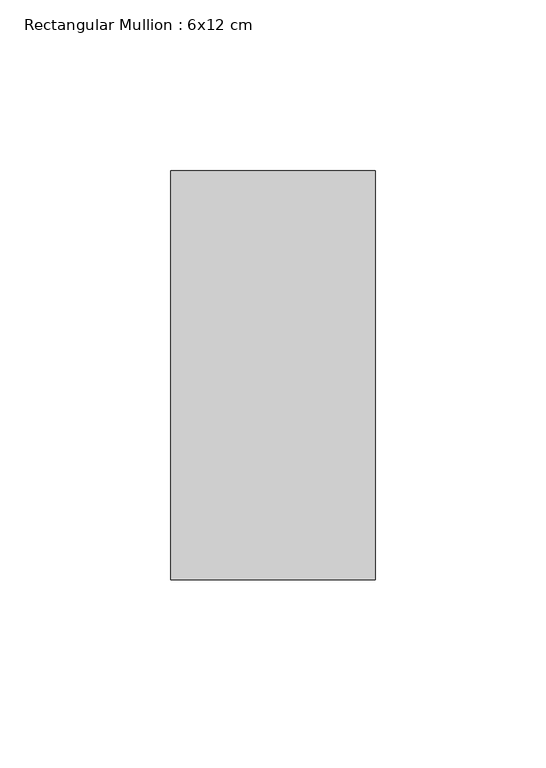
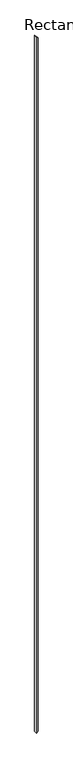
"""IFC4 building model written with IfcOpenShell, lengths in millimetres: member geometry, Rectangular Mullion : 6x12 cm."""

from ifc_helpers import new_model, si_unit, frame, origin, place, context, project, spatial, polyline, outline, extrude, source, transform, mapped, element, save


def rectangular_mullion_6x12_cm_6d6147da(model_context):
    return source(origin(), model_context, "Body", "SweptSolid", [
        extrude(outline(polyline([(-104.1141863, 30.0), (-53.2294579, -30.0), (-29505.6405988, -30.0), (-29458.5251095, 30.0), (-104.1141863, 30.0)])), frame((0.0, 85.0, 0.0), z_axis=(0.0, 1.0, 0.0), x_axis=(0.0, 0.0, 1.0)), (0.0, 0.0, 1.0), 120.0),
    ])


if __name__ == "__main__":
    model = new_model("IFC4")
    model_context = context("Model", 3, world=origin())
    ifc_project = project(units=[si_unit("LENGTHUNIT", "METRE", prefix="MILLI")], contexts=[model_context])
    site = spatial("IfcSite", under=ifc_project)
    building = spatial("IfcBuilding", under=site)
    placement = place(None, origin())
    rectangular_mullion_6x12_cm_shape = rectangular_mullion_6x12_cm_6d6147da(model_context)
    element("IfcMember", 1, ObjectType="Rectangular Mullion : 6x12 cm", at=placement, inside=building, context=model_context, shape_type="MappedRepresentation", body=[
        mapped(rectangular_mullion_6x12_cm_shape, transform((0.0, 0.0, 0.0), x_axis=(1.0, 0.0, 0.0), y_axis=(0.0, 1.0, 0.0), z_axis=(0.0, 0.0, 1.0))),
    ])
    save(model, "model.ifc")
